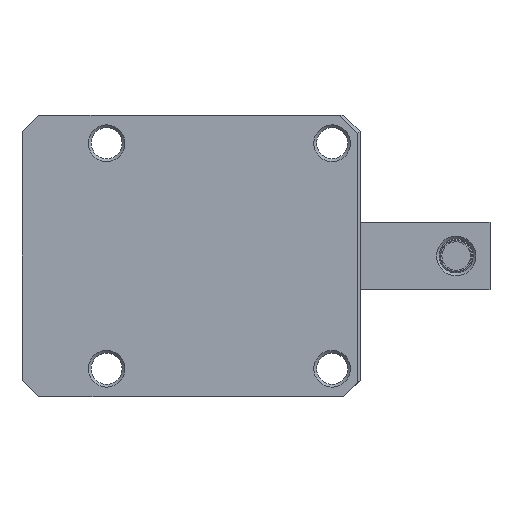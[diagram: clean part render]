
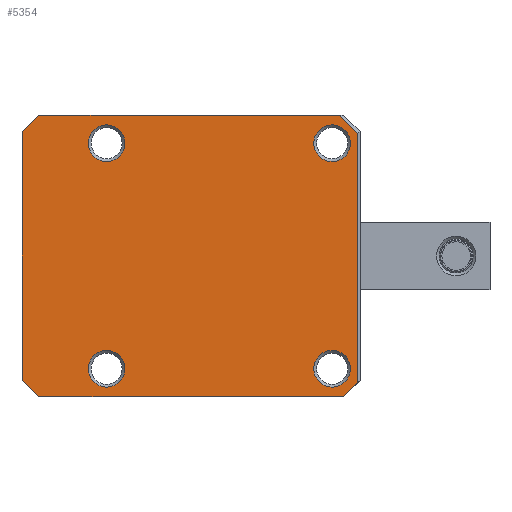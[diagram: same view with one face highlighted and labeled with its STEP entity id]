
A CAD part, front view. The second image highlights one B-rep face of the part: STEP entity #5354.
In plain terms, the highlighted planar face has unit normal (0, -1, 0).
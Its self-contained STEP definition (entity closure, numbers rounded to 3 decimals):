
#144=PLANE('',#5982);
#247=FACE_BOUND('',#758,.T.);
#248=FACE_BOUND('',#759,.T.);
#249=FACE_BOUND('',#760,.T.);
#250=FACE_BOUND('',#761,.T.);
#434=FACE_OUTER_BOUND('',#757,.T.);
#757=EDGE_LOOP('',(#3778,#3779,#3780,#3781,#3782,#3783,#3784,#3785));
#758=EDGE_LOOP('',(#3786));
#759=EDGE_LOOP('',(#3787));
#760=EDGE_LOOP('',(#3788));
#761=EDGE_LOOP('',(#3789));
#1146=LINE('',#8803,#1538);
#1165=LINE('',#8842,#1557);
#1167=LINE('',#8847,#1559);
#1168=LINE('',#8849,#1560);
#1169=LINE('',#8850,#1561);
#1170=LINE('',#8852,#1562);
#1171=LINE('',#8854,#1563);
#1172=LINE('',#8855,#1564);
#1538=VECTOR('',#6797,1000.);
#1557=VECTOR('',#6828,1000.);
#1559=VECTOR('',#6832,1000.);
#1560=VECTOR('',#6833,1000.);
#1561=VECTOR('',#6834,1000.);
#1562=VECTOR('',#6835,1000.);
#1563=VECTOR('',#6836,1000.);
#1564=VECTOR('',#6837,1000.);
#1903=CIRCLE('',#5913,3.25);
#1906=CIRCLE('',#5917,3.25);
#1909=CIRCLE('',#5921,3.25);
#1912=CIRCLE('',#5925,3.25);
#2283=VERTEX_POINT('',#8511);
#2286=VERTEX_POINT('',#8519);
#2289=VERTEX_POINT('',#8527);
#2292=VERTEX_POINT('',#8535);
#2336=VERTEX_POINT('',#8800);
#2337=VERTEX_POINT('',#8802);
#2351=VERTEX_POINT('',#8840);
#2352=VERTEX_POINT('',#8845);
#2353=VERTEX_POINT('',#8846);
#2354=VERTEX_POINT('',#8848);
#2355=VERTEX_POINT('',#8851);
#2356=VERTEX_POINT('',#8853);
#2809=EDGE_CURVE('',#2283,#2283,#1903,.T.);
#2813=EDGE_CURVE('',#2286,#2286,#1906,.T.);
#2817=EDGE_CURVE('',#2289,#2289,#1909,.T.);
#2821=EDGE_CURVE('',#2292,#2292,#1912,.T.);
#2885=EDGE_CURVE('',#2337,#2336,#1146,.T.);
#2905=EDGE_CURVE('',#2336,#2351,#1165,.T.);
#2907=EDGE_CURVE('',#2352,#2353,#1167,.T.);
#2908=EDGE_CURVE('',#2354,#2352,#1168,.T.);
#2909=EDGE_CURVE('',#2337,#2354,#1169,.T.);
#2910=EDGE_CURVE('',#2355,#2351,#1170,.T.);
#2911=EDGE_CURVE('',#2356,#2355,#1171,.T.);
#2912=EDGE_CURVE('',#2353,#2356,#1172,.T.);
#3778=ORIENTED_EDGE('',*,*,#2907,.F.);
#3779=ORIENTED_EDGE('',*,*,#2908,.F.);
#3780=ORIENTED_EDGE('',*,*,#2909,.F.);
#3781=ORIENTED_EDGE('',*,*,#2885,.T.);
#3782=ORIENTED_EDGE('',*,*,#2905,.T.);
#3783=ORIENTED_EDGE('',*,*,#2910,.F.);
#3784=ORIENTED_EDGE('',*,*,#2911,.F.);
#3785=ORIENTED_EDGE('',*,*,#2912,.F.);
#3786=ORIENTED_EDGE('',*,*,#2809,.F.);
#3787=ORIENTED_EDGE('',*,*,#2813,.F.);
#3788=ORIENTED_EDGE('',*,*,#2817,.F.);
#3789=ORIENTED_EDGE('',*,*,#2821,.F.);
#5354=ADVANCED_FACE('',(#434,#247,#248,#249,#250),#144,.F.);
#5913=AXIS2_PLACEMENT_3D('',#8513,#6643,#6644);
#5917=AXIS2_PLACEMENT_3D('',#8521,#6652,#6653);
#5921=AXIS2_PLACEMENT_3D('',#8529,#6661,#6662);
#5925=AXIS2_PLACEMENT_3D('',#8537,#6670,#6671);
#5982=AXIS2_PLACEMENT_3D('',#8844,#6830,#6831);
#6643=DIRECTION('center_axis',(0.,-1.,0.));
#6644=DIRECTION('ref_axis',(0.,0.,
-1.));
#6652=DIRECTION('center_axis',(0.,-1.,0.));
#6653=DIRECTION('ref_axis',(0.,0.,
-1.));
#6661=DIRECTION('center_axis',(0.,-1.,0.));
#6662=DIRECTION('ref_axis',(0.,0.,
-1.));
#6670=DIRECTION('center_axis',(0.,-1.,0.));
#6671=DIRECTION('ref_axis',(0.,0.,-1.));
#6797=DIRECTION('',(1.,0.,0.));
#6828=DIRECTION('',(0.707,0.,0.707));
#6830=DIRECTION('center_axis',(0.,1.,0.));
#6831=DIRECTION('ref_axis',(0.,0.,1.));
#6832=DIRECTION('',(0.707,0.,0.707));
#6833=DIRECTION('',(0.,0.,1.));
#6834=DIRECTION('',(-0.707,0.,0.707));
#6835=DIRECTION('',(0.,0.,-1.));
#6836=DIRECTION('',(0.707,0.,-0.707));
#6837=DIRECTION('',(1.,0.,0.));
#8511=CARTESIAN_POINT('',(411.833,54.859,-16.75));
#8513=CARTESIAN_POINT('Origin',(411.833,54.859,-20.));
#8519=CARTESIAN_POINT('',(451.833,54.859,-16.75));
#8521=CARTESIAN_POINT('Origin',(451.833,54.859,-20.));
#8527=CARTESIAN_POINT('',(451.833,54.859,23.25));
#8529=CARTESIAN_POINT('Origin',(451.833,54.859,20.));
#8535=CARTESIAN_POINT('',(411.833,54.859,23.25));
#8537=CARTESIAN_POINT('Origin',(411.833,54.859,20.));
#8800=CARTESIAN_POINT('',(453.833,54.859,-25.));
#8802=CARTESIAN_POINT('',(399.833,54.859,-25.));
#8803=CARTESIAN_POINT('',(399.833,54.859,-25.));
#8840=CARTESIAN_POINT('',(456.333,54.859,-22.5));
#8842=CARTESIAN_POINT('',(453.833,54.859,-25.));
#8844=CARTESIAN_POINT('Origin',(456.333,54.859,-25.));
#8845=CARTESIAN_POINT('',(396.833,54.859,22.));
#8846=CARTESIAN_POINT('',(399.833,54.859,25.));
#8847=CARTESIAN_POINT('',(396.833,54.859,22.));
#8848=CARTESIAN_POINT('',(396.833,54.859,-22.));
#8849=CARTESIAN_POINT('',(396.833,54.859,-25.));
#8850=CARTESIAN_POINT('',(399.833,54.859,-25.));
#8851=CARTESIAN_POINT('',(456.333,54.859,21.793));
#8852=CARTESIAN_POINT('',(456.333,54.859,-25.));
#8853=CARTESIAN_POINT('',(453.126,54.859,25.));
#8854=CARTESIAN_POINT('',(453.126,54.859,25.));
#8855=CARTESIAN_POINT('',(456.333,54.859,25.));
